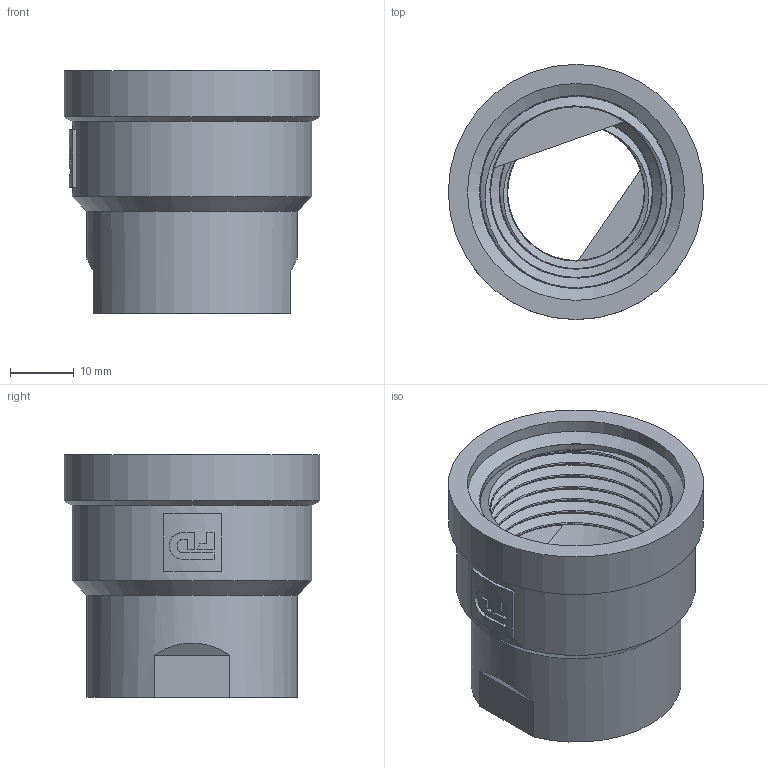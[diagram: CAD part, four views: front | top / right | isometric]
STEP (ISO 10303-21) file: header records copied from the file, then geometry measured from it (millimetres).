
FILE_DESCRIPTION(/* description */ (''),/* implementation_level */ '2;1');
FILE_NAME(/* name */ 'C:\Users\Doom\Desktop\Фадотех\Резьба\M12C 17.03.2020\M12C 17.03.2020.stp',/* time_stamp */ '2022-01-04T01:16:57+02:00',/* author */ ('Doom'),/* organization */ (''),/* preprocessor_version */ 'ST-DEVELOPER v18',/* originating_system */ 'Autodesk Inventor 2020',/* authorisation */ '');
FILE_SCHEMA (('AUTOMOTIVE_DESIGN { 1 0 10303 214 3 1 1 }'));
Length unit declared in the file: millimetre
Products named in the file (1): M12 17.02.2020
Bounding box: 40 x 40 x 38 mm (x, y, z)
Volume: 19178.6 mm3; surface area: 16266.4 mm2
Topology: 3 solids, 3 shells, 80 faces, 222 edges, 147 vertices
Faces by surface type: cylinder 31, plane 28, bspline 16, cone 5
Full cylindrical faces by diameter (mm): 21.41 x9, 24.1 x2, 26.776 x6, 27 x1, 30.2 x2, 33 x1, 34 x1, 37.5 x1, 40 x1
Entity records: 11105 total; most frequent: CARTESIAN_POINT 9176, ORIENTED_EDGE 428, DIRECTION 335, EDGE_CURVE 214, VERTEX_POINT 143, AXIS2_PLACEMENT_3D 130, EDGE_LOOP 89, FACE_OUTER_BOUND 80
